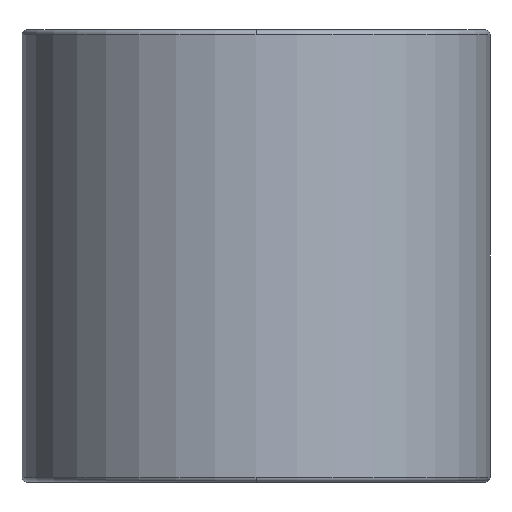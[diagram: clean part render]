
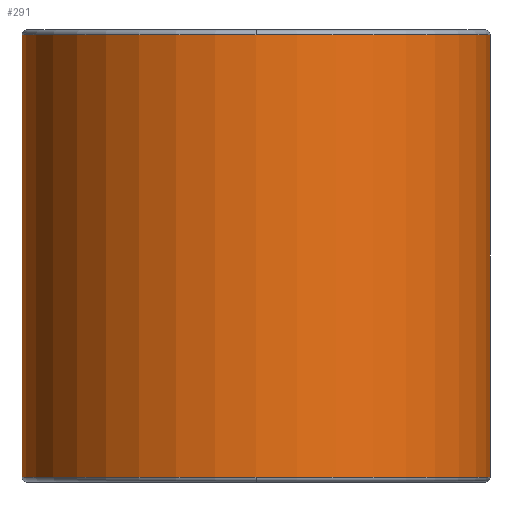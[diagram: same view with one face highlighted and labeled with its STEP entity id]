
A CAD part, front view. The second image highlights one B-rep face of the part: STEP entity #291.
In plain terms, the highlighted cylindrical face has radius 18.625 mm (diameter 37.25 mm), a partial arc.
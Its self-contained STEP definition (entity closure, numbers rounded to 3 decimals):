
#196=CARTESIAN_POINT('',(0.0,-18.625,24.1));
#197=VERTEX_POINT('',#196);
#223=CARTESIAN_POINT('',(-18.625,0.,24.1));
#224=VERTEX_POINT('',#223);
#232=CARTESIAN_POINT('',(0.0,0.,24.1));
#233=DIRECTION('',(0.0,0.0,1.0));
#234=DIRECTION('',(1.0,0.0,0.0));
#235=AXIS2_PLACEMENT_3D('',#232,#233,#234);
#236=CIRCLE('',#235,18.625);
#237=EDGE_CURVE('',#224,#197,#236,.T.);
#242=CARTESIAN_POINT('',(0.0,0.,6.5));
#243=DIRECTION('',(0.0,0.,1.0));
#244=DIRECTION('',(1.0,0.0,0.0));
#245=AXIS2_PLACEMENT_3D('',#242,#243,#244);
#246=CYLINDRICAL_SURFACE('',#245,18.625);
#247=CARTESIAN_POINT('',(18.625,0.,24.1));
#248=VERTEX_POINT('',#247);
#249=CARTESIAN_POINT('',(18.625,0.,-11.1));
#250=VERTEX_POINT('',#249);
#251=CARTESIAN_POINT('',(18.625,0.,24.1));
#252=DIRECTION('',(0.0,0.0,-1.0));
#253=VECTOR('',#252,35.2);
#254=LINE('',#251,#253);
#255=EDGE_CURVE('',#248,#250,#254,.T.);
#256=ORIENTED_EDGE('',*,*,#255,.F.);
#257=CARTESIAN_POINT('',(0.0,0.,24.1));
#258=DIRECTION('',(0.0,0.0,1.0));
#259=DIRECTION('',(1.0,0.0,0.0));
#260=AXIS2_PLACEMENT_3D('',#257,#258,#259);
#261=CIRCLE('',#260,18.625);
#262=EDGE_CURVE('',#197,#248,#261,.T.);
#263=ORIENTED_EDGE('',*,*,#262,.F.);
#264=ORIENTED_EDGE('',*,*,#237,.F.);
#265=CARTESIAN_POINT('',(-18.625,0.,-11.1));
#266=VERTEX_POINT('',#265);
#267=CARTESIAN_POINT('',(-18.625,0.,24.1));
#268=DIRECTION('',(0.0,0.0,-1.0));
#269=VECTOR('',#268,35.2);
#270=LINE('',#267,#269);
#271=EDGE_CURVE('',#224,#266,#270,.T.);
#272=ORIENTED_EDGE('',*,*,#271,.T.);
#273=CARTESIAN_POINT('',(0.0,-18.625,-11.1));
#274=VERTEX_POINT('',#273);
#275=CARTESIAN_POINT('',(0.0,0.,-11.1));
#276=DIRECTION('',(0.0,0.0,1.0));
#277=DIRECTION('',(1.0,0.0,0.0));
#278=AXIS2_PLACEMENT_3D('',#275,#276,#277);
#279=CIRCLE('',#278,18.625);
#280=EDGE_CURVE('',#266,#274,#279,.T.);
#281=ORIENTED_EDGE('',*,*,#280,.T.);
#282=CARTESIAN_POINT('',(0.0,0.,-11.1));
#283=DIRECTION('',(0.0,0.0,1.0));
#284=DIRECTION('',(1.0,0.0,0.0));
#285=AXIS2_PLACEMENT_3D('',#282,#283,#284);
#286=CIRCLE('',#285,18.625);
#287=EDGE_CURVE('',#274,#250,#286,.T.);
#288=ORIENTED_EDGE('',*,*,#287,.T.);
#289=EDGE_LOOP('',(#256,#263,#264,#272,#281,#288));
#290=FACE_OUTER_BOUND('',#289,.T.);
#291=ADVANCED_FACE('',(#290),#246,.T.);
